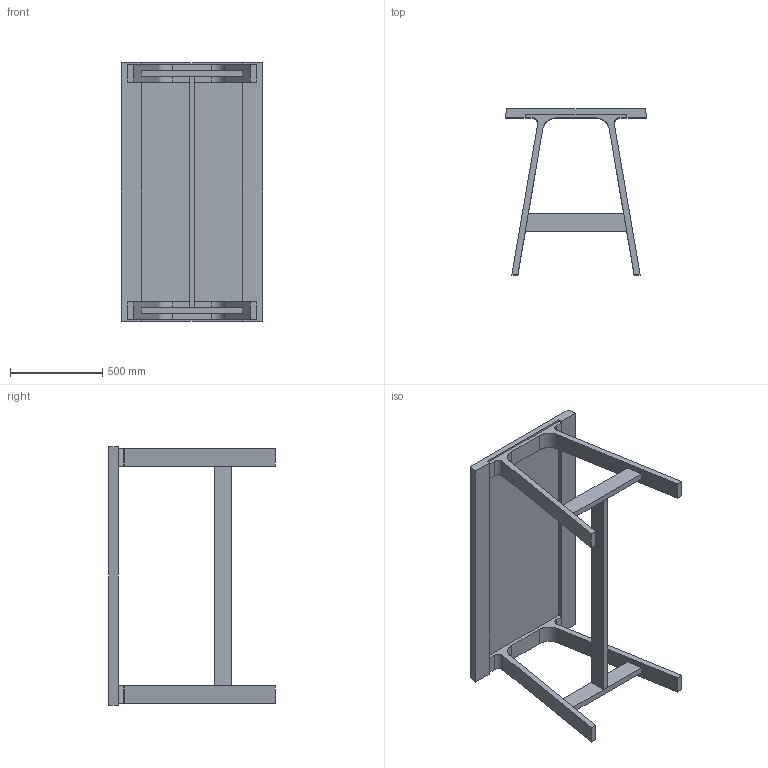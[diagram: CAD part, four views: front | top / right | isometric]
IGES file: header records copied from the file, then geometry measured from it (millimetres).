
Start section: SolidWorks IGES file using analytic representation for surfaces
Global section: file name: G:\Product Info\Doble\3D\igs\Doble buffet 140x75x110.IGS; native system: SolidWorks 2013; preprocessor: SolidWorks 2013; author: remko; date: 131216.130320; units: millimetre
Bounding box: 767.63 x 900 x 1400 mm (x, y, z)
Surface area: 4072911.9 mm2 (no closed solid volume)
Topology: 0 solids, 0 shells, 62 faces, 436 edges, 436 vertices
Faces by surface type: bspline 52, revolution 10
